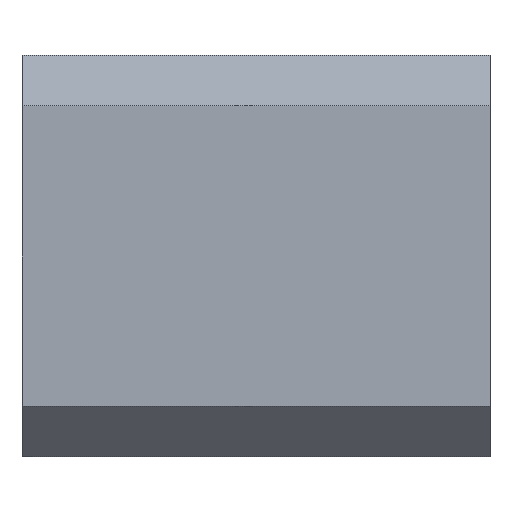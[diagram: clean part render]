
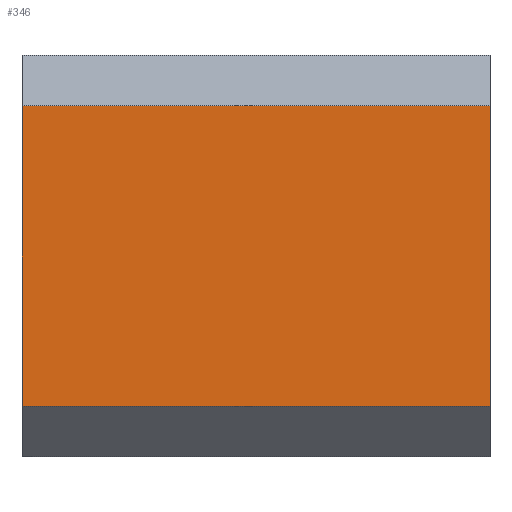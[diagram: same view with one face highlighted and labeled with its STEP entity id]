
A CAD part, left-side view. The second image highlights one B-rep face of the part: STEP entity #346.
In plain terms, the highlighted planar face has unit normal (-1, 0, 0).
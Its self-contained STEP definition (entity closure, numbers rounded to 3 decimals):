
#24 = CARTESIAN_POINT ( 'NONE',  ( -32.255, 10.814, 1.5 ) ) ;
#118 = EDGE_LOOP ( 'NONE', ( #713, #712, #730, #728 ) ) ;
#136 = VERTEX_POINT ( 'NONE', #286 ) ;
#164 = VECTOR ( 'NONE', #811, 1000. ) ;
#206 = VECTOR ( 'NONE', #273, 1000. ) ;
#207 = LINE ( 'NONE', #420, #463 ) ;
#208 = VECTOR ( 'NONE', #340, 1000. ) ;
#210 = LINE ( 'NONE', #732, #208 ) ;
#241 = CARTESIAN_POINT ( 'NONE',  ( -32.255, 3.814, 1.5 ) ) ;
#273 = DIRECTION ( 'NONE',  ( 0., -1., 0. ) ) ;
#286 = CARTESIAN_POINT ( 'NONE',  ( -32.255, -3.186, 1.5 ) ) ;
#340 = DIRECTION ( 'NONE',  ( 0., 1., 0. ) ) ;
#345 = VERTEX_POINT ( 'NONE', #423 ) ;
#346 = ADVANCED_FACE ( 'NONE', ( #582 ), #440, .T. ) ;
#395 = EDGE_CURVE ( 'NONE', #136, #555, #561, .T. ) ;
#420 = CARTESIAN_POINT ( 'NONE',  ( -32.255, 10.814, 6. ) ) ;
#422 = DIRECTION ( 'NONE',  ( 0., 0., 1. ) ) ;
#423 = CARTESIAN_POINT ( 'NONE',  ( -32.255, 10.814, 10.5 ) ) ;
#440 = PLANE ( 'NONE',  #498 ) ;
#445 = DIRECTION ( 'NONE',  ( -1., 0., 0. ) ) ;
#449 = DIRECTION ( 'NONE',  ( 0., 0., 1. ) ) ;
#463 = VECTOR ( 'NONE', #422, 1000. ) ;
#471 = EDGE_CURVE ( 'NONE', #669, #136, #528, .T. ) ;
#483 = EDGE_CURVE ( 'NONE', #555, #345, #210, .T. ) ;
#498 = AXIS2_PLACEMENT_3D ( 'NONE', #612, #445, #449 ) ;
#528 = LINE ( 'NONE', #241, #206 ) ;
#555 = VERTEX_POINT ( 'NONE', #694 ) ;
#561 = LINE ( 'NONE', #814, #164 ) ;
#582 = FACE_OUTER_BOUND ( 'NONE', #118, .T. ) ;
#612 = CARTESIAN_POINT ( 'NONE',  ( -32.255, -3.186, 1.5 ) ) ;
#669 = VERTEX_POINT ( 'NONE', #24 ) ;
#694 = CARTESIAN_POINT ( 'NONE',  ( -32.255, -3.186, 10.5 ) ) ;
#712 = ORIENTED_EDGE ( 'NONE', *, *, #483, .T. ) ;
#713 = ORIENTED_EDGE ( 'NONE', *, *, #395, .T. ) ;
#728 = ORIENTED_EDGE ( 'NONE', *, *, #471, .T. ) ;
#730 = ORIENTED_EDGE ( 'NONE', *, *, #742, .F. ) ;
#732 = CARTESIAN_POINT ( 'NONE',  ( -32.255, 3.814, 10.5 ) ) ;
#742 = EDGE_CURVE ( 'NONE', #669, #345, #207, .T. ) ;
#811 = DIRECTION ( 'NONE',  ( 0., 0., 1. ) ) ;
#814 = CARTESIAN_POINT ( 'NONE',  ( -32.255, -3.186, 6. ) ) ;
